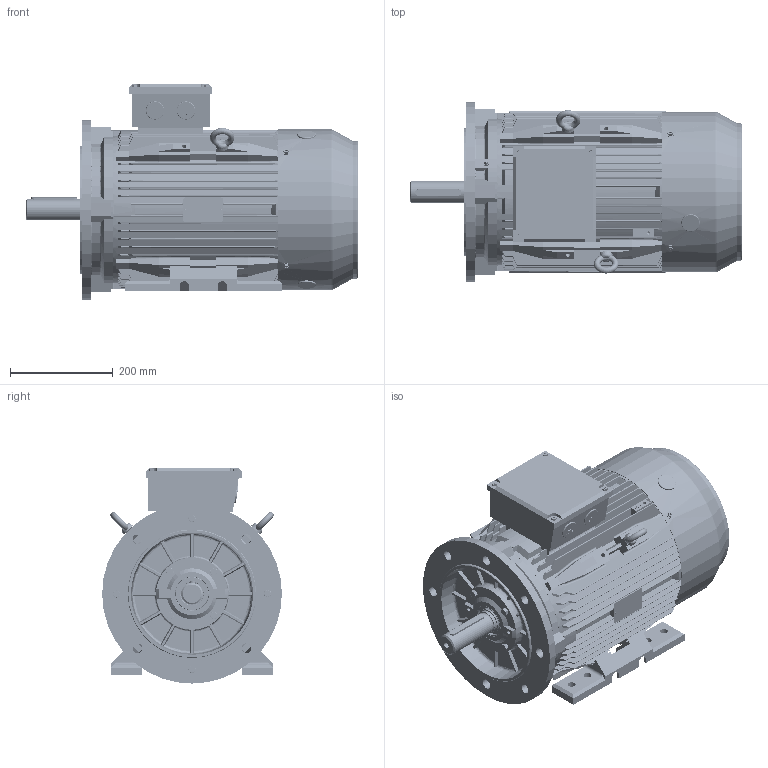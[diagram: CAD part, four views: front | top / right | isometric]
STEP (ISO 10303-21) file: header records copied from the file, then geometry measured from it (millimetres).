
FILE_DESCRIPTION (( 'STEP AP203' ), '1' );
FILE_NAME ('TC 160L B35外形图.STEP', '2012-12-12T09:00:41', ( '微软用户' ), ( '微软中国' ), 'SwSTEP 2.0', 'SolidWorks 2008', '' );
FILE_SCHEMA (( 'CONFIG_CONTROL_DESIGN' ));
Products named in the file (26): TC 160L转子_默认; TC 160L 轴_默认; 6309_默认; TC 160 风罩_默认; TC 160-180接线盒座_默认; M8-60_默认; M8-30_默认; 8_默认; 平键12-8-90_默认; TC 160L B35俋倛芞; TC 160L 机座_默认; TC 160L 底脚_默认; TC 160 B3 端盖_默认; TC 160 轴承外盖NDE_默认; TC 160 轴承外盖DE_默认; TC 160 轴承内盖_默认; 油封45-65-8_默认; IE2 160风叶_默认; TC 160-180接线盒盖_默认; 铜油嘴_默认; 扣塞_默认; 螺塞M32_默认; M6-20_默认; M6-10_默认; 吊环M10_默认; TC 160 B5 端盖_默认
Assembly tree (52 placements, depth 3):
  TC 160L B35俋倛芞
    TC 160 轴承内盖_默认  x2
    TC 160L 底脚_默认  x2
    油封45-65-8_默认  x2
    8_默认  x8
    M6-20_默认  x4
    M6-10_默认  x4
    M8-30_默认  x4
    TC 160-180接线盒盖_默认
    TC 160-180接线盒座_默认
    平键12-8-90_默认
    TC 160L 机座_默认
    TC 160 轴承外盖DE_默认
    扣塞_默认  x2
    TC 160 风罩_默认
    M8-60_默认  x4
    吊环M10_默认  x2
    TC 160 B3 端盖_默认
    TC 160L转子_默认
      6309_默认  x2
      TC 160L 轴_默认
    IE2 160风叶_默认
    铜油嘴_默认  x2
    TC 160 B5 端盖_默认
    TC 160 轴承外盖NDE_默认
    螺塞M32_默认  x2
Bounding box: 646.5 x 350 x 419 mm (x, y, z)
Volume: 10131544 mm3; surface area: 3000174.1 mm2
Topology: 53 solids, 54 shells, 6890 faces, 19708 edges, 12927 vertices
Faces by surface type: plane 3296, cylinder 2554, cone 458, torus 414, bspline 116, sphere 52
Entity records: 217975 total; most frequent: CARTESIAN_POINT 54949, ORIENTED_EDGE 34258, DIRECTION 32551, EDGE_CURVE 17129, AXIS2_PLACEMENT_3D 11420, VERTEX_POINT 11293, VECTOR 9711, LINE 9711
